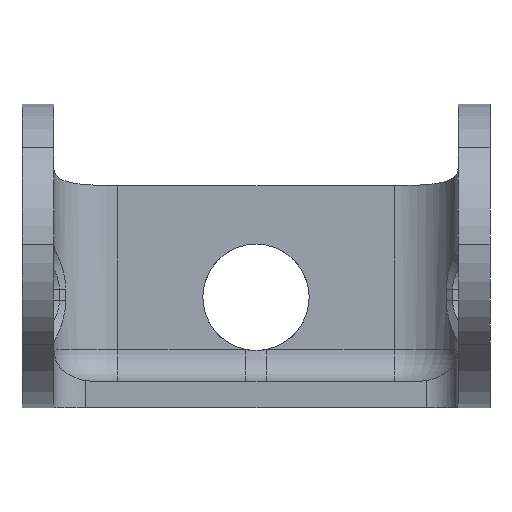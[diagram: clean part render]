
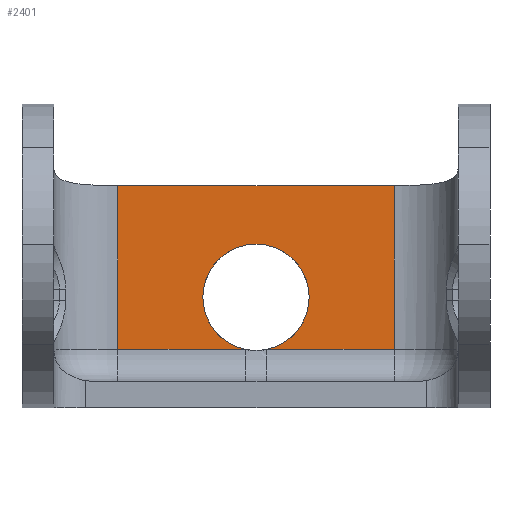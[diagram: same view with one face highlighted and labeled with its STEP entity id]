
A CAD part, front view. The second image highlights one B-rep face of the part: STEP entity #2401.
In plain terms, the highlighted planar face has unit normal (0, -1, 0).
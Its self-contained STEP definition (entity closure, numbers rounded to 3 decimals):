
#90 = EDGE_CURVE ( 'NONE', #1856, #6445, #798, .T. ) ;
#267 = EDGE_CURVE ( 'NONE', #6445, #575, #5041, .T. ) ;
#345 = ORIENTED_EDGE ( 'NONE', *, *, #267, .T. ) ;
#362 = CIRCLE ( 'NONE', #4220, 5. ) ;
#550 = VECTOR ( 'NONE', #3283, 1000. ) ;
#575 = VERTEX_POINT ( 'NONE', #1865 ) ;
#591 = AXIS2_PLACEMENT_3D ( 'NONE', #4081, #6186, #3619 ) ;
#768 = ORIENTED_EDGE ( 'NONE', *, *, #1485, .T. ) ;
#798 = LINE ( 'NONE', #1798, #550 ) ;
#1122 = ORIENTED_EDGE ( 'NONE', *, *, #3429, .T. ) ;
#1186 = LINE ( 'NONE', #3266, #3035 ) ;
#1302 = CARTESIAN_POINT ( 'NONE',  ( -19., 0., 20. ) ) ;
#1485 = EDGE_CURVE ( 'NONE', #5016, #1856, #1827, .T. ) ;
#1708 = CARTESIAN_POINT ( 'NONE',  ( 13., 0., 5.5 ) ) ;
#1794 = VERTEX_POINT ( 'NONE', #2250 ) ;
#1798 = CARTESIAN_POINT ( 'NONE',  ( -13., 0., -20. ) ) ;
#1824 = LINE ( 'NONE', #2284, #3208 ) ;
#1827 = LINE ( 'NONE', #6102, #5573 ) ;
#1856 = VERTEX_POINT ( 'NONE', #5177 ) ;
#1865 = CARTESIAN_POINT ( 'NONE',  ( -0.995, 0., -9.9 ) ) ;
#1978 = VERTEX_POINT ( 'NONE', #5829 ) ;
#2139 = VECTOR ( 'NONE', #4056, 1000. ) ;
#2250 = CARTESIAN_POINT ( 'NONE',  ( 13., 0., -9.9 ) ) ;
#2284 = CARTESIAN_POINT ( 'NONE',  ( 13., 0., 20. ) ) ;
#2401 = ADVANCED_FACE ( 'NONE', ( #5133 ), #5557, .F. ) ;
#2739 = ORIENTED_EDGE ( 'NONE', *, *, #3094, .T. ) ;
#2967 = CARTESIAN_POINT ( 'NONE',  ( 0., 0., -5. ) ) ;
#3035 = VECTOR ( 'NONE', #5399, 1000. ) ;
#3094 = EDGE_CURVE ( 'NONE', #4452, #1978, #6110, .T. ) ;
#3208 = VECTOR ( 'NONE', #3351, 1000. ) ;
#3266 = CARTESIAN_POINT ( 'NONE',  ( 13., 0., -9.9 ) ) ;
#3283 = DIRECTION ( 'NONE',  ( 0., 0., -1. ) ) ;
#3335 = ORIENTED_EDGE ( 'NONE', *, *, #90, .T. ) ;
#3351 = DIRECTION ( 'NONE',  ( 0., 0., 1. ) ) ;
#3429 = EDGE_CURVE ( 'NONE', #1794, #5016, #1824, .T. ) ;
#3619 = DIRECTION ( 'NONE',  ( 0., 0., 1. ) ) ;
#3971 = DIRECTION ( 'NONE',  ( 0., 0., 1. ) ) ;
#4022 = CARTESIAN_POINT ( 'NONE',  ( 13., 0., -9.9 ) ) ;
#4056 = DIRECTION ( 'NONE',  ( 1., 0., 0. ) ) ;
#4057 = DIRECTION ( 'NONE',  ( 0., 1., 0. ) ) ;
#4081 = CARTESIAN_POINT ( 'NONE',  ( 0., 0., -5. ) ) ;
#4220 = AXIS2_PLACEMENT_3D ( 'NONE', #2967, #4057, #5508 ) ;
#4452 = VERTEX_POINT ( 'NONE', #4611 ) ;
#4611 = CARTESIAN_POINT ( 'NONE',  ( 0., 0., 0. ) ) ;
#4678 = ORIENTED_EDGE ( 'NONE', *, *, #5003, .T. ) ;
#4796 = CARTESIAN_POINT ( 'NONE',  ( -13., 0., -9.9 ) ) ;
#4916 = EDGE_LOOP ( 'NONE', ( #3335, #345, #5484, #2739, #4678, #1122, #768 ) ) ;
#5003 = EDGE_CURVE ( 'NONE', #1978, #1794, #1186, .T. ) ;
#5016 = VERTEX_POINT ( 'NONE', #1708 ) ;
#5041 = LINE ( 'NONE', #4022, #2139 ) ;
#5133 = FACE_OUTER_BOUND ( 'NONE', #4916, .T. ) ;
#5177 = CARTESIAN_POINT ( 'NONE',  ( -13., 0., 5.5 ) ) ;
#5228 = AXIS2_PLACEMENT_3D ( 'NONE', #1302, #5523, #3971 ) ;
#5399 = DIRECTION ( 'NONE',  ( 1., 0., 0. ) ) ;
#5484 = ORIENTED_EDGE ( 'NONE', *, *, #6040, .T. ) ;
#5508 = DIRECTION ( 'NONE',  ( 0., 0., 1. ) ) ;
#5523 = DIRECTION ( 'NONE',  ( 0., 1., 0. ) ) ;
#5557 = PLANE ( 'NONE',  #5228 ) ;
#5573 = VECTOR ( 'NONE', #6008, 1000. ) ;
#5829 = CARTESIAN_POINT ( 'NONE',  ( 0.995, 0., -9.9 ) ) ;
#6008 = DIRECTION ( 'NONE',  ( -1., 0., 0. ) ) ;
#6040 = EDGE_CURVE ( 'NONE', #575, #4452, #362, .T. ) ;
#6102 = CARTESIAN_POINT ( 'NONE',  ( 22., 0., 5.5 ) ) ;
#6110 = CIRCLE ( 'NONE', #591, 5. ) ;
#6186 = DIRECTION ( 'NONE',  ( 0., 1., 0. ) ) ;
#6445 = VERTEX_POINT ( 'NONE', #4796 ) ;
